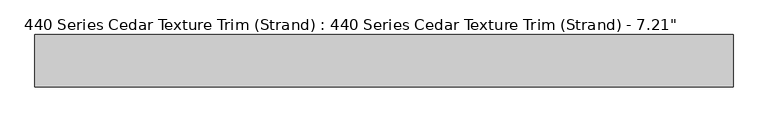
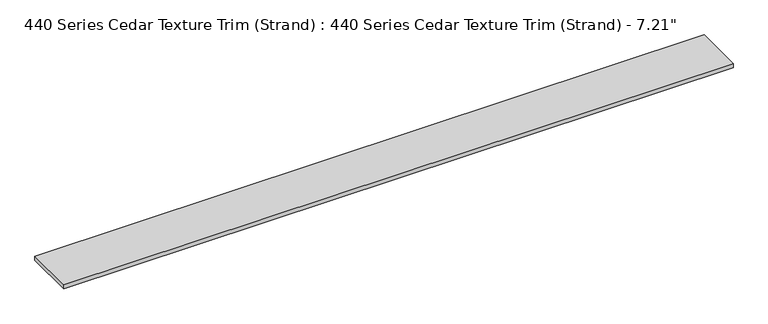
"""IFC4 building model written with IfcOpenShell, lengths in millimetres: proxy geometry."""

from ifc_helpers import new_model, si_unit, origin, origin_with_axes, place, context, project, spatial, polyline, outline, extrude, source, transform, mapped, element, save


def proxy_17556f26(model_context):
    return source(origin(), model_context, "Body", "SweptSolid", [
        extrude(outline(polyline([(2438.4, 0.0), (0.0, 0.0), (0.0, 183.1578125), (2438.4, 183.1578125), (2438.4, 0.0)])), origin_with_axes(), (0.0, 0.0, 1.0), 15.875),
    ])


if __name__ == "__main__":
    model = new_model("IFC4")
    model_context = context("Model", 3, world=origin())
    ifc_project = project(units=[si_unit("LENGTHUNIT", "METRE", prefix="MILLI")], contexts=[model_context])
    site = spatial("IfcSite", under=ifc_project)
    building = spatial("IfcBuilding", under=site)
    placement = place(None, origin())
    proxy_shape = proxy_17556f26(model_context)
    element("IfcBuildingElementProxy", 1, Name="440 Series Cedar Texture Trim (Strand) : 440 Series Cedar Texture Trim (Strand) - 7.21\"", ObjectType="440 Series Cedar Texture Trim (Strand) : 440 Series Cedar Texture Trim (Strand) - 7.21\"", at=placement, inside=building, context=model_context, shape_type="MappedRepresentation", body=[
        mapped(proxy_shape, transform((0.0, 0.0, 0.0), x_axis=(1.0, 0.0, 0.0), y_axis=(0.0, 1.0, 0.0), z_axis=(0.0, 0.0, 1.0))),
    ])
    save(model, "model.ifc")
